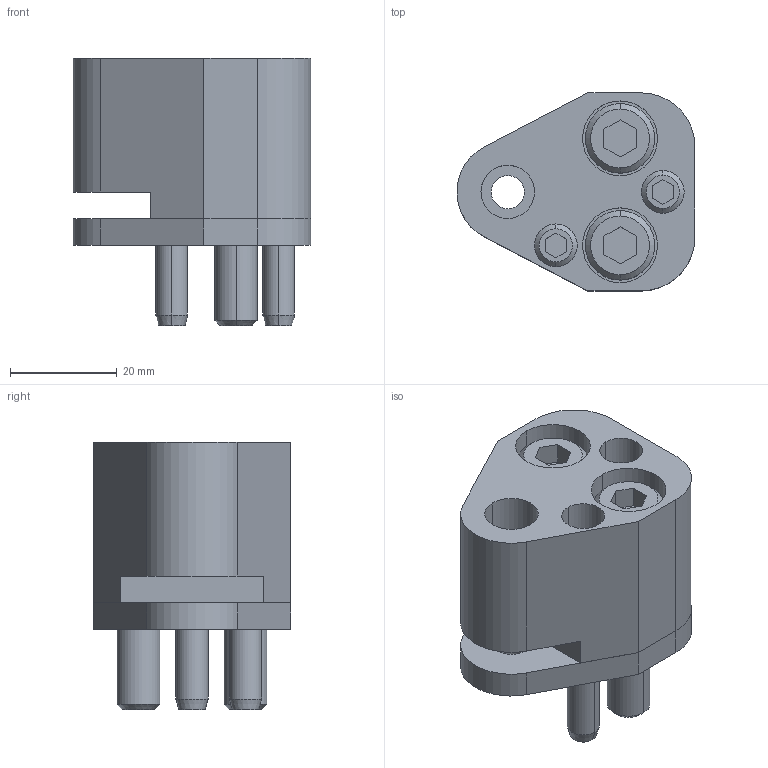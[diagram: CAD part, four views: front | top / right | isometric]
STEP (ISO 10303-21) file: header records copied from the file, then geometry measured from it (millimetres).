
FILE_DESCRIPTION(/* description */ (''),/* implementation_level */ '2;1');
FILE_NAME(/* name */ '3d_dp-fp10_02826_r00.stp',/* time_stamp */ '2011-01-10T14:15:55+09:00',/* author */ ('MISUMI'),/* organization */ (''),/* preprocessor_version */ 'ST-DEVELOPER v11',/* originating_system */ 'UGS - NX 5.0',/* authorisation */ '');
FILE_SCHEMA (('CONFIG_CONTROL_DESIGN'));
Length unit declared in the file: millimetre
Products named in the file (1): 3d_dp-fp10_02826_r00
Bounding box: 44.47 x 37 x 50 mm (x, y, z)
Volume: 40132.4 mm3; surface area: 18787.1 mm2
Topology: 8 solids, 8 shells, 154 faces, 350 edges, 225 vertices
Faces by surface type: plane 68, cylinder 60, cone 26
Entity records: 4496 total; most frequent: DIRECTION 802, CARTESIAN_POINT 783, ORIENTED_EDGE 700, EDGE_CURVE 350, AXIS2_PLACEMENT_3D 302, VERTEX_POINT 225, LINE 198, VECTOR 198
